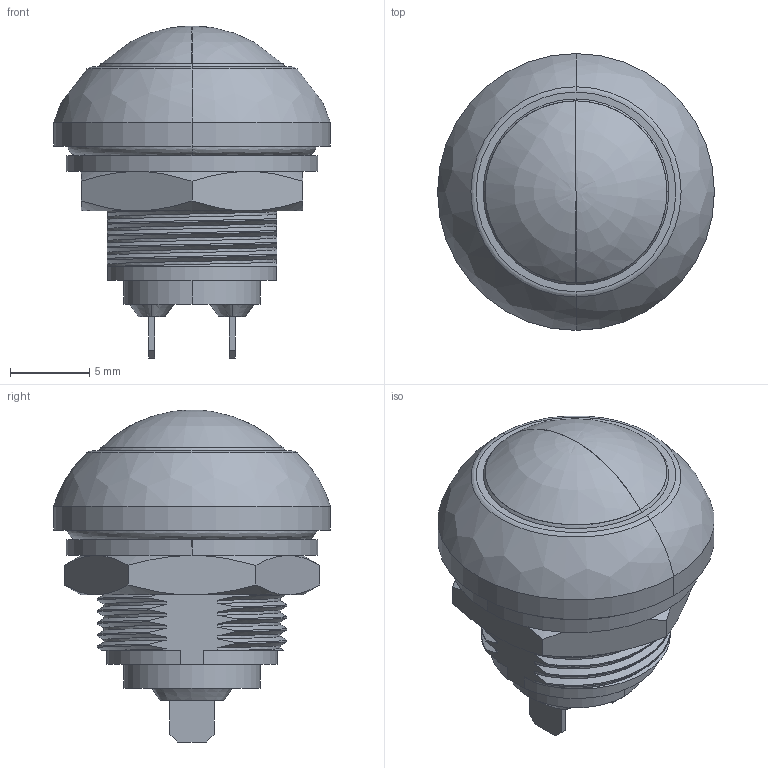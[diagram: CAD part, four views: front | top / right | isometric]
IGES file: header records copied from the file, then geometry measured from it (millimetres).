
Start section:  PTC IGES file: c-2-2329360-4-a-3d.igs
Global section: file name: c-2-2329360-4-a-3d.igs; native system: Creo Parametric by PTC Inc.; preprocessor: 2016050; author: workeradm; organization: Unknown; units: millimetre
Bounding box: 17.5 x 17.5 x 20.99 mm (x, y, z)
Surface area: 1252.6 mm2 (no closed solid volume)
Topology: 0 solids, 0 shells, 110 faces, 556 edges, 554 vertices
Faces by surface type: bspline 69, revolution 41
